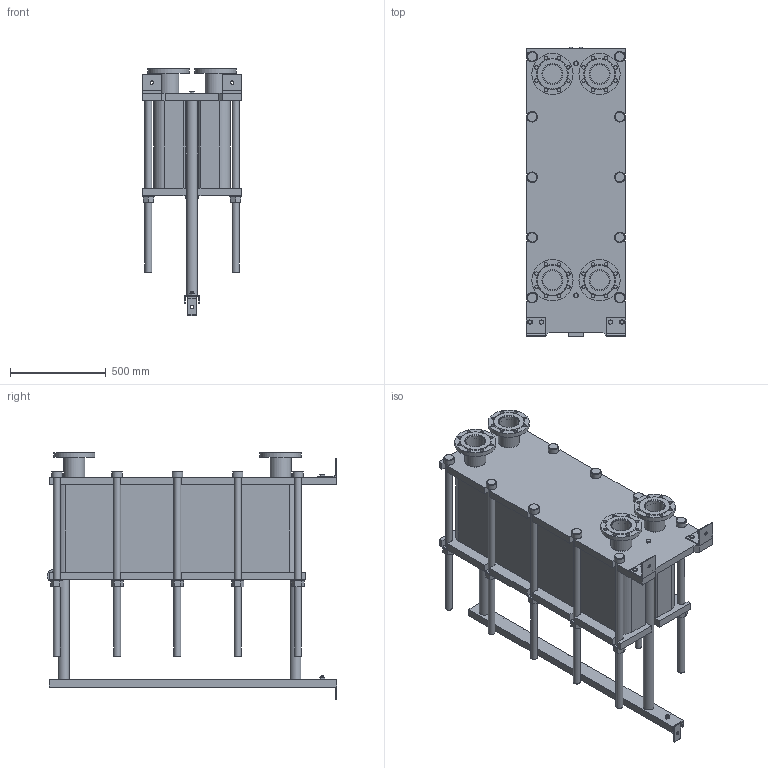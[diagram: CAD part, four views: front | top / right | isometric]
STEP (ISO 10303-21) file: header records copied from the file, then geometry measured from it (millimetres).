
FILE_DESCRIPTION(/* description */ (''),/* implementation_level */ '2;1');
FILE_NAME(/* name */ 'C:\Users\zhuro\Desktop\ENCO\TO\ЭН-04\ЭН-0,5-04-132-1.stp',/* time_stamp */ '2022-06-06T10:57:16+03:00',/* author */ ('zhuro'),/* organization */ (''),/* preprocessor_version */ 'ST-DEVELOPER v18.1',/* originating_system */ 'Autodesk Inventor 2022',/* authorisation */ '');
FILE_SCHEMA (('AUTOMOTIVE_DESIGN { 1 0 10303 214 3 1 1 }'));
Length unit declared in the file: millimetre
Products named in the file (1): ЭН-0,5-04-132-1
Bounding box: 520 x 1510 x 1291 mm (x, y, z)
Volume: 300517373.2 mm3; surface area: 9058945 mm2
Topology: 45 solids, 45 shells, 668 faces, 1611 edges, 1048 vertices
Faces by surface type: plane 457, cylinder 166, cone 39, torus 6
Full cylindrical faces by diameter (mm): 8 x4, 10 x2, 16 x8, 18 x35, 36 x25, 40 x2, 42 x1, 45 x4, 54 x10, 57 x2, 60 x10, 68 x2, 100 x4, 110 x8, 215 x4
Entity records: 23607 total; most frequent: CARTESIAN_POINT 7348, DIRECTION 3371, ORIENTED_EDGE 3142, EDGE_CURVE 1571, AXIS2_PLACEMENT_3D 1199, VERTEX_POINT 1044, LINE 973, VECTOR 973
